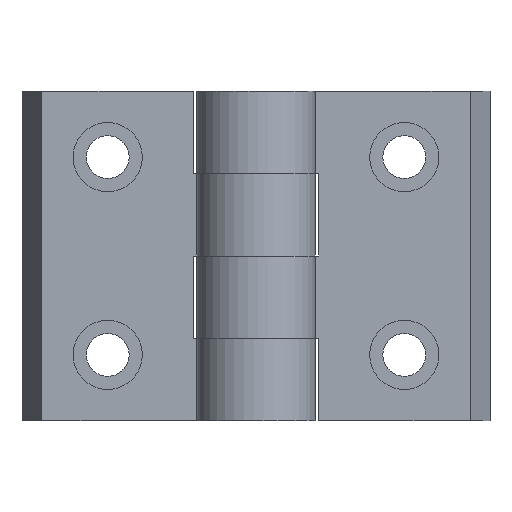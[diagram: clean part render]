
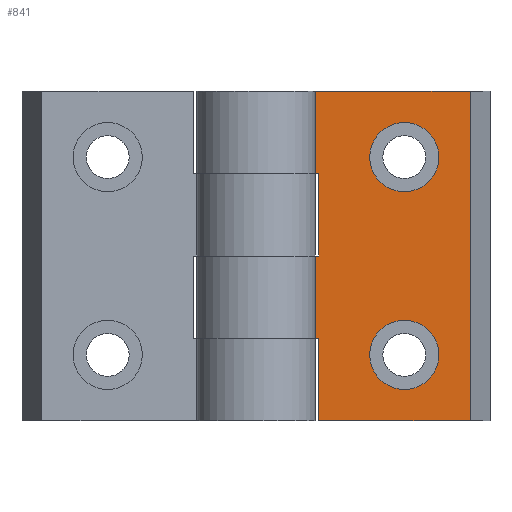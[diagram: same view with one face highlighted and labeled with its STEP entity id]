
A CAD part, front view. The second image highlights one B-rep face of the part: STEP entity #841.
In plain terms, the highlighted planar face has unit normal (0, -1, 0).
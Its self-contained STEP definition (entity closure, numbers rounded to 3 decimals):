
#137=CARTESIAN_POINT('',(13.469,-1.024,10.0));
#138=VERTEX_POINT('',#137);
#139=CARTESIAN_POINT('',(8.219,-1.024,10.0));
#140=DIRECTION('',(0.0,1.0,0.0));
#141=DIRECTION('',(1.0,0.0,0.0));
#142=AXIS2_PLACEMENT_3D('',#139,#140,#141);
#143=CIRCLE('',#142,5.25);
#144=EDGE_CURVE('',#138,#138,#143,.T.);
#247=CARTESIAN_POINT('',(13.469,-1.024,40.0));
#248=VERTEX_POINT('',#247);
#249=CARTESIAN_POINT('',(8.219,-1.024,40.0));
#250=DIRECTION('',(0.0,1.0,0.0));
#251=DIRECTION('',(1.0,0.0,0.0));
#252=AXIS2_PLACEMENT_3D('',#249,#250,#251);
#253=CIRCLE('',#252,5.25);
#254=EDGE_CURVE('',#248,#248,#253,.T.);
#326=CARTESIAN_POINT('',(-4.781,-1.024,37.5));
#327=VERTEX_POINT('',#326);
#334=CARTESIAN_POINT('',(-5.281,-1.024,37.5));
#335=VERTEX_POINT('',#334);
#336=CARTESIAN_POINT('',(-5.281,-1.024,37.5));
#337=DIRECTION('',(1.0,0.0,0.0));
#338=VECTOR('',#337,0.5);
#339=LINE('',#336,#338);
#340=EDGE_CURVE('',#335,#327,#339,.T.);
#377=CARTESIAN_POINT('',(-4.781,-1.024,25.0));
#378=VERTEX_POINT('',#377);
#379=CARTESIAN_POINT('',(-4.781,-1.024,37.5));
#380=DIRECTION('',(0.0,0.0,-1.0));
#381=VECTOR('',#380,12.5);
#382=LINE('',#379,#381);
#383=EDGE_CURVE('',#327,#378,#382,.T.);
#427=CARTESIAN_POINT('',(-5.281,-1.024,25.0));
#428=VERTEX_POINT('',#427);
#436=CARTESIAN_POINT('',(-4.781,-1.024,25.0));
#437=DIRECTION('',(-1.0,0.0,0.0));
#438=VECTOR('',#437,0.5);
#439=LINE('',#436,#438);
#440=EDGE_CURVE('',#378,#428,#439,.T.);
#486=CARTESIAN_POINT('',(-4.781,-1.024,12.5));
#487=VERTEX_POINT('',#486);
#494=CARTESIAN_POINT('',(-5.281,-1.024,12.5));
#495=VERTEX_POINT('',#494);
#496=CARTESIAN_POINT('',(-5.281,-1.024,12.5));
#497=DIRECTION('',(1.0,0.0,0.0));
#498=VECTOR('',#497,0.5);
#499=LINE('',#496,#498);
#500=EDGE_CURVE('',#495,#487,#499,.T.);
#537=CARTESIAN_POINT('',(-4.781,-1.024,0.0));
#538=VERTEX_POINT('',#537);
#539=CARTESIAN_POINT('',(-4.781,-1.024,12.5));
#540=DIRECTION('',(0.0,0.0,-1.0));
#541=VECTOR('',#540,12.5);
#542=LINE('',#539,#541);
#543=EDGE_CURVE('',#487,#538,#542,.T.);
#690=CARTESIAN_POINT('',(-5.281,-1.024,50.0));
#691=VERTEX_POINT('',#690);
#692=CARTESIAN_POINT('',(-5.281,-1.024,37.5));
#693=DIRECTION('',(0.0,0.0,1.0));
#694=VECTOR('',#693,12.5);
#695=LINE('',#692,#694);
#696=EDGE_CURVE('',#335,#691,#695,.T.);
#777=CARTESIAN_POINT('',(18.219,-1.024,50.0));
#778=VERTEX_POINT('',#777);
#785=CARTESIAN_POINT('',(18.219,-1.024,0.0));
#786=VERTEX_POINT('',#785);
#787=CARTESIAN_POINT('',(18.219,-1.024,0.0));
#788=DIRECTION('',(0.0,0.0,1.0));
#789=VECTOR('',#788,50.0);
#790=LINE('',#787,#789);
#791=EDGE_CURVE('',#786,#778,#790,.T.);
#803=CARTESIAN_POINT('',(18.219,-1.024,0.0));
#804=DIRECTION('',(0.0,-1.0,0.0));
#805=DIRECTION('',(0.0,0.0,-1.0));
#806=AXIS2_PLACEMENT_3D('',#803,#804,#805);
#807=PLANE('',#806);
#808=ORIENTED_EDGE('',*,*,#440,.T.);
#809=CARTESIAN_POINT('',(-5.281,-1.024,12.5));
#810=DIRECTION('',(0.0,0.0,1.0));
#811=VECTOR('',#810,12.5);
#812=LINE('',#809,#811);
#813=EDGE_CURVE('',#495,#428,#812,.T.);
#814=ORIENTED_EDGE('',*,*,#813,.F.);
#815=ORIENTED_EDGE('',*,*,#500,.T.);
#816=ORIENTED_EDGE('',*,*,#543,.T.);
#817=CARTESIAN_POINT('',(-4.781,-1.024,0.0));
#818=DIRECTION('',(1.0,0.0,0.0));
#819=VECTOR('',#818,23.0);
#820=LINE('',#817,#819);
#821=EDGE_CURVE('',#538,#786,#820,.T.);
#822=ORIENTED_EDGE('',*,*,#821,.T.);
#823=ORIENTED_EDGE('',*,*,#791,.T.);
#824=CARTESIAN_POINT('',(18.219,-1.024,50.0));
#825=DIRECTION('',(-1.0,0.0,0.0));
#826=VECTOR('',#825,23.5);
#827=LINE('',#824,#826);
#828=EDGE_CURVE('',#778,#691,#827,.T.);
#829=ORIENTED_EDGE('',*,*,#828,.T.);
#830=ORIENTED_EDGE('',*,*,#696,.F.);
#831=ORIENTED_EDGE('',*,*,#340,.T.);
#832=ORIENTED_EDGE('',*,*,#383,.T.);
#833=EDGE_LOOP('',(#808,#814,#815,#816,#822,#823,#829,#830,#831,#832));
#834=FACE_OUTER_BOUND('',#833,.T.);
#835=ORIENTED_EDGE('',*,*,#144,.T.);
#836=EDGE_LOOP('',(#835));
#837=FACE_BOUND('',#836,.T.);
#838=ORIENTED_EDGE('',*,*,#254,.T.);
#839=EDGE_LOOP('',(#838));
#840=FACE_BOUND('',#839,.T.);
#841=ADVANCED_FACE('',(#834,#837,#840),#807,.T.);
